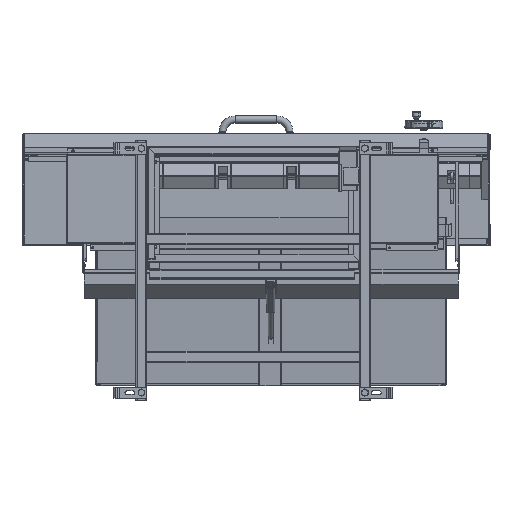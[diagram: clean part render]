
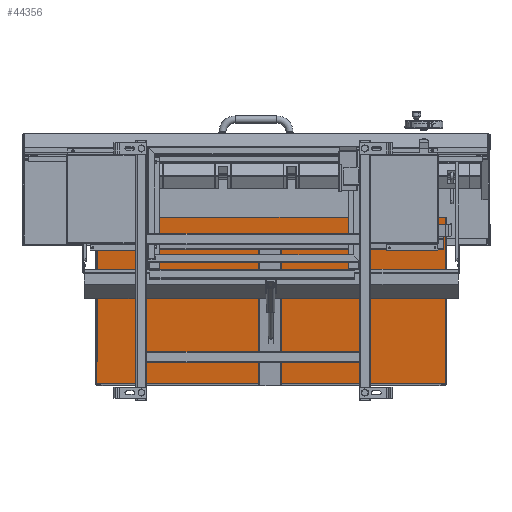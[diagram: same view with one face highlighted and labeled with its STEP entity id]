
A CAD part, front view. The second image highlights one B-rep face of the part: STEP entity #44356.
In plain terms, the highlighted planar face has unit normal (0, -0.995, -0.099) as drawn and (0, 0, 1) by its records, which use the part's own axes.
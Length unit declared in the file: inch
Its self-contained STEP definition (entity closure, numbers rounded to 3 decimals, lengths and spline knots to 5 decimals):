
#153 = DIRECTION ( 'NONE',  ( 0., 1., 0. ) ) ;
#1935 = LINE ( 'NONE', #50336, #57334 ) ;
#20684 = VERTEX_POINT ( 'NONE', #54536 ) ;
#23792 = CARTESIAN_POINT ( 'NONE',  ( 0.0675, 29.4325, 0. ) ) ;
#24529 = ORIENTED_EDGE ( 'NONE', *, *, #65739, .T. ) ;
#26521 = CARTESIAN_POINT ( 'NONE',  ( 61.4325, 0., 0. ) ) ;
#26947 = VERTEX_POINT ( 'NONE', #40519 ) ;
#27691 = ORIENTED_EDGE ( 'NONE', *, *, #67487, .T. ) ;
#28091 = VECTOR ( 'NONE', #93081, 39.37008 ) ;
#30701 = VECTOR ( 'NONE', #116958, 39.37008 ) ;
#33880 = VERTEX_POINT ( 'NONE', #26521 ) ;
#37391 = LINE ( 'NONE', #38001, #28091 ) ;
#38001 = CARTESIAN_POINT ( 'NONE',  ( 0.0675, 29.5, 0. ) ) ;
#40519 = CARTESIAN_POINT ( 'NONE',  ( 0.0675, 29.4325, 0. ) ) ;
#42431 = DIRECTION ( 'NONE',  ( 1., 0., 0. ) ) ;
#42821 = LINE ( 'NONE', #79327, #30701 ) ;
#44356 = ADVANCED_FACE ( 'NONE', ( #117630 ), #72236, .F. ) ;
#50336 = CARTESIAN_POINT ( 'NONE',  ( 61.4325, 0., 0. ) ) ;
#54536 = CARTESIAN_POINT ( 'NONE',  ( 61.4325, 29.4325, 0. ) ) ;
#57334 = VECTOR ( 'NONE', #153, 39.37008 ) ;
#62883 = CARTESIAN_POINT ( 'NONE',  ( 0.0675, 0., 0. ) ) ;
#63272 = DIRECTION ( 'NONE',  ( 0., 0., -1. ) ) ;
#65739 = EDGE_CURVE ( 'NONE', #33880, #20684, #1935, .T. ) ;
#67487 = EDGE_CURVE ( 'NONE', #78787, #33880, #42821, .T. ) ;
#67669 = LINE ( 'NONE', #23792, #95589 ) ;
#67689 = AXIS2_PLACEMENT_3D ( 'NONE', #91924, #63272, #99690 ) ;
#72236 = PLANE ( 'NONE',  #67689 ) ;
#78787 = VERTEX_POINT ( 'NONE', #62883 ) ;
#79327 = CARTESIAN_POINT ( 'NONE',  ( 0., 0., 0. ) ) ;
#91924 = CARTESIAN_POINT ( 'NONE',  ( 0., 29.5, 0. ) ) ;
#93081 = DIRECTION ( 'NONE',  ( 0., -1., 0. ) ) ;
#95589 = VECTOR ( 'NONE', #42431, 39.37008 ) ;
#98444 = ORIENTED_EDGE ( 'NONE', *, *, #106435, .T. ) ;
#99690 = DIRECTION ( 'NONE',  ( -1., 0., 0. ) ) ;
#104279 = EDGE_CURVE ( 'NONE', #26947, #20684, #67669, .T. ) ;
#106435 = EDGE_CURVE ( 'NONE', #26947, #78787, #37391, .T. ) ;
#106547 = EDGE_LOOP ( 'NONE', ( #107725, #98444, #27691, #24529 ) ) ;
#107725 = ORIENTED_EDGE ( 'NONE', *, *, #104279, .F. ) ;
#116958 = DIRECTION ( 'NONE',  ( 1., 0., 0. ) ) ;
#117630 = FACE_OUTER_BOUND ( 'NONE', #106547, .T. ) ;
